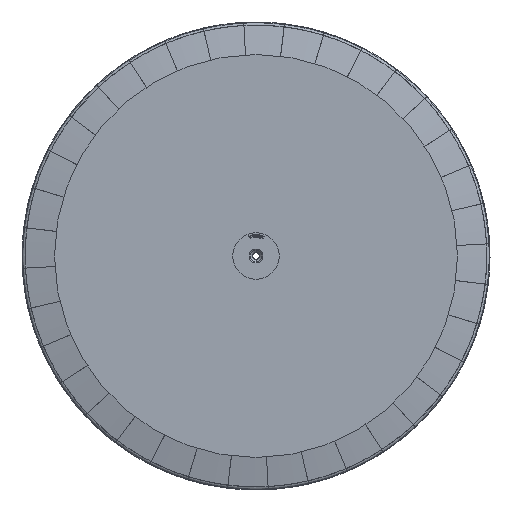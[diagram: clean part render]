
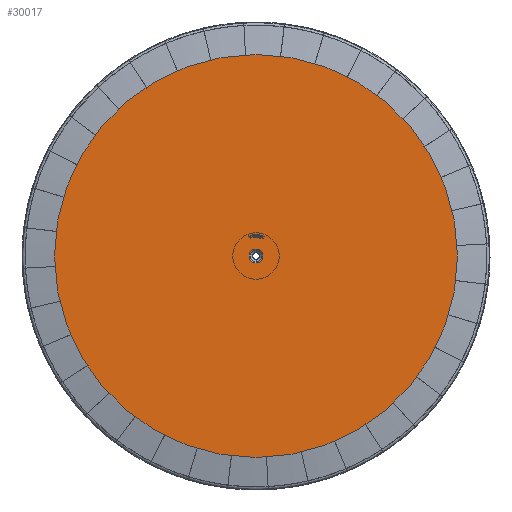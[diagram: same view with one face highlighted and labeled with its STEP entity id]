
A CAD part, front view. The second image highlights one B-rep face of the part: STEP entity #30017.
In plain terms, the highlighted planar face has unit normal (0, -1, 0) as drawn and (0, 0, 1) by its records, which use the part's own axes.
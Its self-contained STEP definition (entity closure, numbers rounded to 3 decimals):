
#440 = AXIS2_PLACEMENT_3D ( 'NONE', #20698, #17877, #24778 ) ;
#933 = FACE_BOUND ( 'NONE', #5715, .T. ) ;
#956 = CARTESIAN_POINT ( 'NONE',  ( 0., 0., 5. ) ) ;
#1982 = CIRCLE ( 'NONE', #440, 9. ) ;
#2033 = CIRCLE ( 'NONE', #8022, 260. ) ;
#3137 = EDGE_CURVE ( 'NONE', #12200, #22071, #8192, .T. ) ;
#3502 = AXIS2_PLACEMENT_3D ( 'NONE', #7718, #10232, #26832 ) ;
#3624 = ORIENTED_EDGE ( 'NONE', *, *, #24169, .T. ) ;
#5694 = FACE_OUTER_BOUND ( 'NONE', #14789, .T. ) ;
#5715 = EDGE_LOOP ( 'NONE', ( #28121, #15033 ) ) ;
#6785 = DIRECTION ( 'NONE',  ( 1., 0., 0. ) ) ;
#6789 = EDGE_CURVE ( 'NONE', #11946, #30071, #2033, .T. ) ;
#7718 = CARTESIAN_POINT ( 'NONE',  ( 0., 0., 5. ) ) ;
#8022 = AXIS2_PLACEMENT_3D ( 'NONE', #29345, #15080, #6785 ) ;
#8177 = PLANE ( 'NONE',  #3502 ) ;
#8192 = CIRCLE ( 'NONE', #15718, 9. ) ;
#8688 = DIRECTION ( 'NONE',  ( 1., 0., 0. ) ) ;
#10232 = DIRECTION ( 'NONE',  ( 0., 0., 1. ) ) ;
#10621 = AXIS2_PLACEMENT_3D ( 'NONE', #956, #12891, #14807 ) ;
#10926 = EDGE_CURVE ( 'NONE', #22071, #12200, #1982, .T. ) ;
#11189 = CARTESIAN_POINT ( 'NONE',  ( 0., 0., 5. ) ) ;
#11946 = VERTEX_POINT ( 'NONE', #16619 ) ;
#12200 = VERTEX_POINT ( 'NONE', #24996 ) ;
#12891 = DIRECTION ( 'NONE',  ( 0., 0., 1. ) ) ;
#13093 = CIRCLE ( 'NONE', #10621, 260. ) ;
#13524 = DIRECTION ( 'NONE',  ( 0., 0., 1. ) ) ;
#14114 = CARTESIAN_POINT ( 'NONE',  ( 9., 0., 5. ) ) ;
#14789 = EDGE_LOOP ( 'NONE', ( #3624, #30410 ) ) ;
#14807 = DIRECTION ( 'NONE',  ( 1., 0., 0. ) ) ;
#14923 = CARTESIAN_POINT ( 'NONE',  ( -260., 0., 5. ) ) ;
#15033 = ORIENTED_EDGE ( 'NONE', *, *, #3137, .F. ) ;
#15080 = DIRECTION ( 'NONE',  ( 0., 0., 1. ) ) ;
#15718 = AXIS2_PLACEMENT_3D ( 'NONE', #11189, #13524, #8688 ) ;
#16619 = CARTESIAN_POINT ( 'NONE',  ( 260., 0., 5. ) ) ;
#17877 = DIRECTION ( 'NONE',  ( 0., 0., 1. ) ) ;
#20698 = CARTESIAN_POINT ( 'NONE',  ( 0., 0., 5. ) ) ;
#22071 = VERTEX_POINT ( 'NONE', #14114 ) ;
#24169 = EDGE_CURVE ( 'NONE', #30071, #11946, #13093, .T. ) ;
#24778 = DIRECTION ( 'NONE',  ( 1., 0., 0. ) ) ;
#24996 = CARTESIAN_POINT ( 'NONE',  ( -9., 0., 5. ) ) ;
#26832 = DIRECTION ( 'NONE',  ( 1., 0., 0. ) ) ;
#28121 = ORIENTED_EDGE ( 'NONE', *, *, #10926, .F. ) ;
#29345 = CARTESIAN_POINT ( 'NONE',  ( 0., 0., 5. ) ) ;
#30017 = ADVANCED_FACE ( 'NONE', ( #933, #5694 ), #8177, .T. ) ;
#30071 = VERTEX_POINT ( 'NONE', #14923 ) ;
#30410 = ORIENTED_EDGE ( 'NONE', *, *, #6789, .T. ) ;
